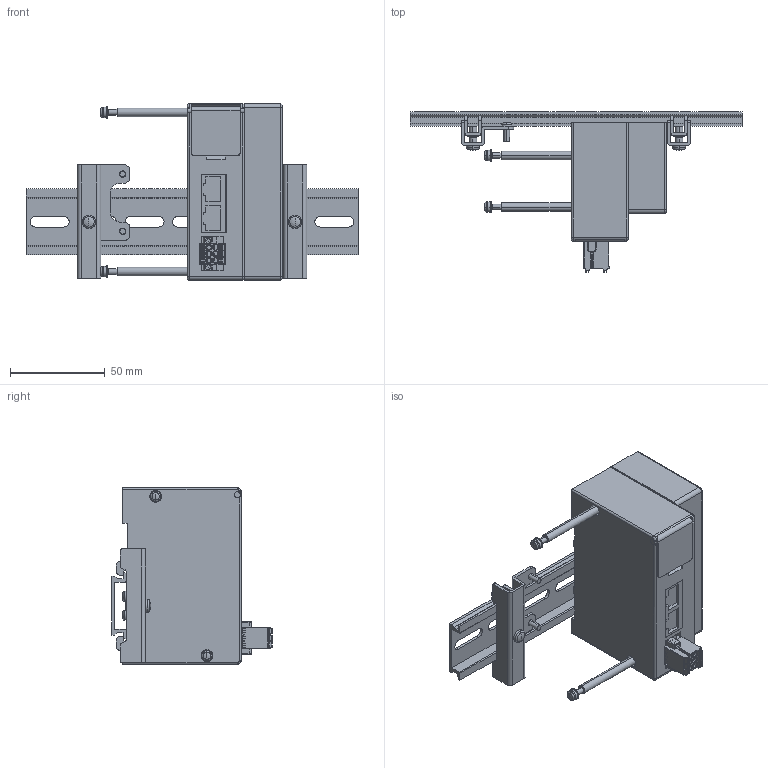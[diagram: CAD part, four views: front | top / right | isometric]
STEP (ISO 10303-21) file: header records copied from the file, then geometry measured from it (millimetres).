
FILE_DESCRIPTION( (''), '2;1');
FILE_NAME ('YS8EM3-2-DR.stp','2022-12-01T14:42:05',(''),(''),'spGate 12.6.6','','');
FILE_SCHEMA (('AUTOMOTIVE_DESIGN'));
Length unit declared in the file: millimetre
Products named in the file (4): Assembly; YS8EM3-2-DR-prt0; YS8EM3-2-DR-prt1; YS8EM3-2-DR-prt2
Assembly tree (4 placements, depth 2):
  Assembly
    YS8EM3-2-DR-prt0
    YS8EM3-2-DR-prt1
    YS8EM3-2-DR-prt2  x2
Bounding box: 175 x 84.4 x 93 mm (x, y, z)
Volume: 277496.9 mm3; surface area: 62906.1 mm2
Topology: 4 solids, 4 shells, 1019 faces, 2679 edges, 1721 vertices
Faces by surface type: plane 595, cylinder 326, bspline 82, sphere 16
Entity records: 46664 total; most frequent: CARTESIAN_POINT 6305, ORIENTED_EDGE 4636, DIRECTION 4394, COLOUR_RGB 3209, PRESENTATION_STYLE_ASSIGNMENT 3209, STYLED_ITEM 3209, EDGE_CURVE 2318, DRAUGHTING_PRE_DEFINED_CURVE_FONT 2318
